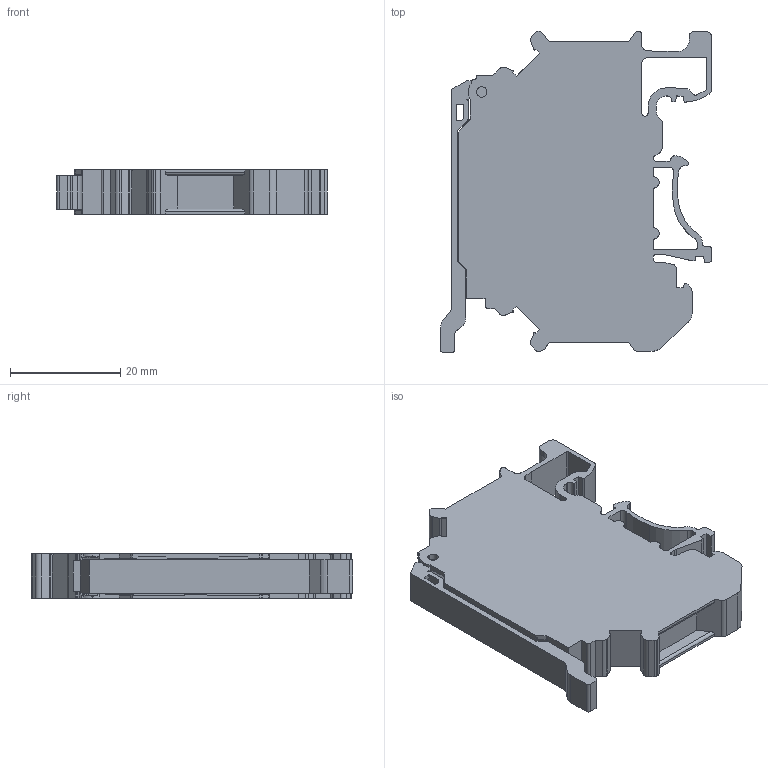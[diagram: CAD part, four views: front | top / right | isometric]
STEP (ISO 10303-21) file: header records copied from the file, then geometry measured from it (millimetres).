
FILE_DESCRIPTION( ('This file contains a STEP AP42 implementation' ,'as created by ZW3D STEP Interface translator.') ,'2;1' );
FILE_NAME( 'TUR-4-HESI-傷赽.stp' ,'24 726.1017 3', (''), ('ZWCAD Software Co.'), 'Version 1.0', 'ZW3D to STEP translator', '' );
FILE_SCHEMA(('AUTOMOTIVE_DESIGN { 1 0 10303 214 1 1 1 1 }'));
Length unit declared in the file: millimetre
Products named in the file (2): 0; RUT4-HESI-傷赽
Bounding box: 49.11 x 58.27 x 8.11 mm (x, y, z)
Volume: 14960.3 mm3; surface area: 8212.5 mm2
Topology: 2 solids, 2 shells, 329 faces, 964 edges, 639 vertices
Faces by surface type: plane 201, cylinder 121, bspline 4, cone 3
Full cylindrical faces by diameter (mm): 2.6 x1
Entity records: 11548 total; most frequent: CARTESIAN_POINT 2288, ORIENTED_EDGE 1928, DIRECTION 1813, EDGE_CURVE 964, VECTOR 703, LINE 703, VERTEX_POINT 639, AXIS2_PLACEMENT_3D 555
